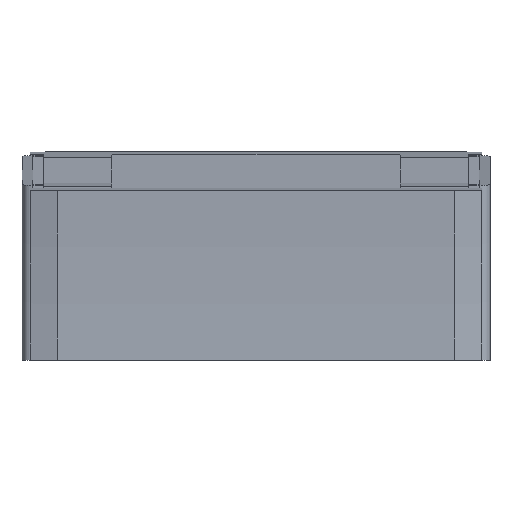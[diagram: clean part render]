
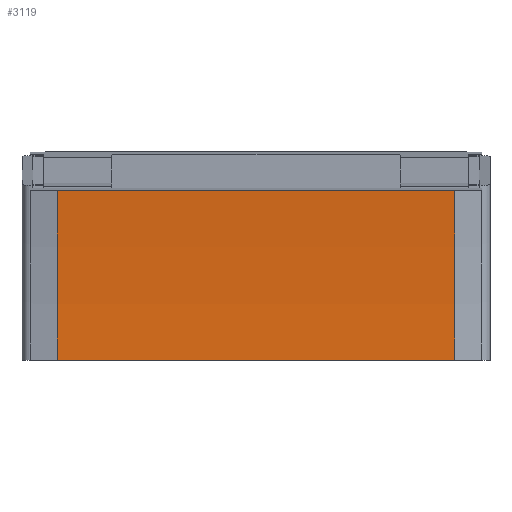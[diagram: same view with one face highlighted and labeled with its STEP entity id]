
A CAD part, front view. The second image highlights one B-rep face of the part: STEP entity #3119.
In plain terms, the highlighted cylindrical face has radius 357.5 mm (diameter 715 mm), a partial arc.
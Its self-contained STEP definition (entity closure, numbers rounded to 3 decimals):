
#3061=CARTESIAN_POINT('',(36.5,-12.36,31.158));
#3062=VERTEX_POINT('',#3061);
#3069=CARTESIAN_POINT('',(36.5,-11.,0.0));
#3070=VERTEX_POINT('',#3069);
#3071=CARTESIAN_POINT('',(36.5,-368.5,0.));
#3072=DIRECTION('',(1.0,0.0,0.0));
#3073=DIRECTION('',(0.0,1.0,0.0));
#3074=AXIS2_PLACEMENT_3D('',#3071,#3072,#3073);
#3075=CIRCLE('',#3074,357.5);
#3076=EDGE_CURVE('',#3070,#3062,#3075,.T.);
#3088=CARTESIAN_POINT('',(0.,-368.5,0.));
#3089=DIRECTION('',(1.0,0.0,0.0));
#3090=DIRECTION('',(0.0,1.0,0.0));
#3091=AXIS2_PLACEMENT_3D('',#3088,#3089,#3090);
#3092=CYLINDRICAL_SURFACE('',#3091,357.5);
#3093=CARTESIAN_POINT('',(-36.5,-12.36,31.158));
#3094=VERTEX_POINT('',#3093);
#3095=CARTESIAN_POINT('',(36.5,-12.36,31.158));
#3096=DIRECTION('',(-1.0,0.0,0.0));
#3097=VECTOR('',#3096,73.);
#3098=LINE('',#3095,#3097);
#3099=EDGE_CURVE('',#3062,#3094,#3098,.T.);
#3100=ORIENTED_EDGE('',*,*,#3099,.T.);
#3101=CARTESIAN_POINT('',(-36.5,-11.,0.0));
#3102=VERTEX_POINT('',#3101);
#3103=CARTESIAN_POINT('',(-36.5,-368.5,0.));
#3104=DIRECTION('',(1.0,0.0,0.0));
#3105=DIRECTION('',(0.0,1.0,0.0));
#3106=AXIS2_PLACEMENT_3D('',#3103,#3104,#3105);
#3107=CIRCLE('',#3106,357.5);
#3108=EDGE_CURVE('',#3102,#3094,#3107,.T.);
#3109=ORIENTED_EDGE('',*,*,#3108,.F.);
#3110=CARTESIAN_POINT('',(-36.5,-11.,0.0));
#3111=DIRECTION('',(1.0,0.0,0.0));
#3112=VECTOR('',#3111,73.);
#3113=LINE('',#3110,#3112);
#3114=EDGE_CURVE('',#3102,#3070,#3113,.T.);
#3115=ORIENTED_EDGE('',*,*,#3114,.T.);
#3116=ORIENTED_EDGE('',*,*,#3076,.T.);
#3117=EDGE_LOOP('',(#3100,#3109,#3115,#3116));
#3118=FACE_OUTER_BOUND('',#3117,.T.);
#3119=ADVANCED_FACE('',(#3118),#3092,.F.);
